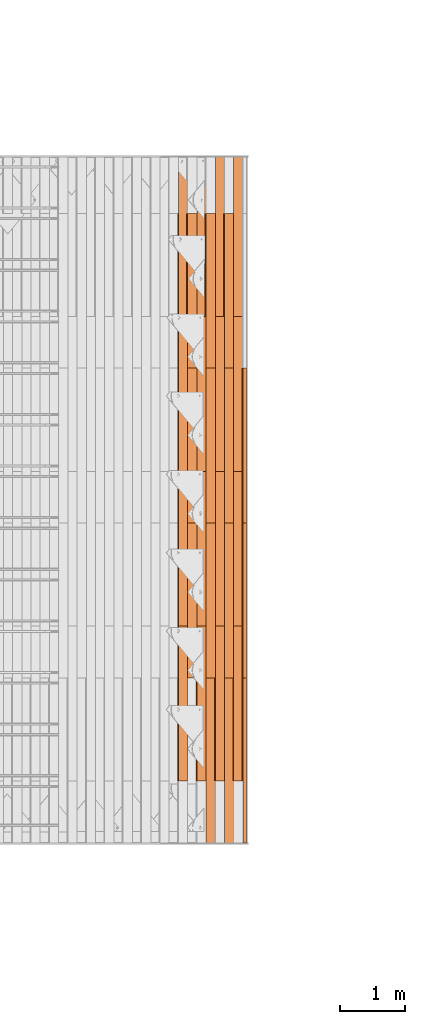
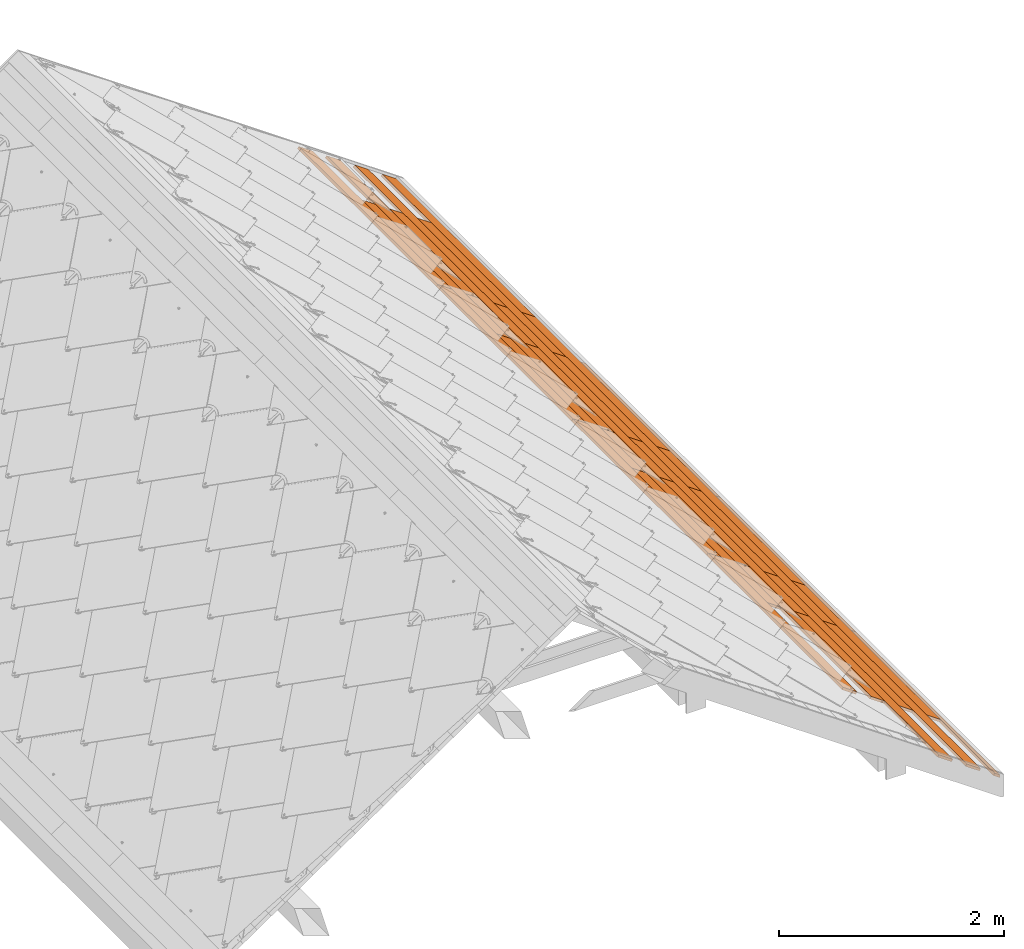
# One storey, part 91 of 133: 30 proxies, 1 element without a shape of its own.
"""IFC2X3 building model written with IfcOpenShell, lengths in millimetres."""

import ifcopenshell
import ifcopenshell.guid

model = None  # the IFC model being written
_history = None  # IfcOwnerHistory: only IFC2X3 demands one
_inside = {}  # id of a spatial element -> (the spatial element, [elements in it])
_under = {}  # id of a project, library or spatial element -> (it, [spatial elements below it])
_declared = {}  # id of a project -> (the project, [libraries it declares])
_typed = {}  # id of a type object -> (the type object, [elements of that type])
_made_of = {}  # id of a material, layer set ... -> (it, [elements and type objects made of it])


def new_model(schema):
    """Start an empty IFC model of exactly this schema.

    Asked for "IFC4X3", IfcOpenShell would pick the latest addendum, in which some entities
    have other attributes; the version numbers below select the first issue.
    IFC2X3 requires an IfcOwnerHistory on every rooted entity: one is made here for all.
    """
    global model, _history
    if schema == "IFC4X3":
        model = ifcopenshell.file(schema_version=(4, 3, 0, 0))
    else:
        model = ifcopenshell.file(schema=schema)
    _inside.clear()
    _under.clear()
    _declared.clear()
    _typed.clear()
    _made_of.clear()
    _history = None
    if model.schema == "IFC2X3":
        org = make("IfcOrganization", Name="unknown")
        user = make(
            "IfcPersonAndOrganization",
            ThePerson=make("IfcPerson", FamilyName="unknown"),
            TheOrganization=org,
        )
        app = make(
            "IfcApplication",
            ApplicationDeveloper=org,
            Version="unknown",
            ApplicationFullName="unknown",
            ApplicationIdentifier="unknown",
        )
        _history = make(
            "IfcOwnerHistory",
            OwningUser=user,
            OwningApplication=app,
            ChangeAction="ADDED",
            CreationDate=0,
        )
    return model


def make(cls, **values):
    """One entity of the class cls with the attributes given. An attribute that is None is left unset."""
    return model.create_entity(
        cls, **{name: value for name, value in values.items() if value is not None}
    )


def entity(cls, *values):
    """Any entity or typed value of the class cls, its attributes in the order of the schema. None: left unset."""
    e = model.create_entity(cls)
    for i, value in enumerate(values):
        if value is not None:
            e[i] = value
    return e


def rooted(cls, **values):
    """An entity with a GlobalId (a new one), such as an element, a storey or a relation."""
    return make(cls, GlobalId=ifcopenshell.guid.new(), OwnerHistory=_history, **values)


def si_unit(unit_type, name, prefix=None):
    """IfcSIUnit, for example si_unit("LENGTHUNIT", "METRE", prefix="MILLI")."""
    return make("IfcSIUnit", UnitType=unit_type, Prefix=prefix, Name=name)


def converted_unit(unit_type, name, factor, base, dimensions=None, offset=None):
    """IfcConversionBasedUnit, such as the inch: factor (a typed value) times the base unit."""
    return make(
        "IfcConversionBasedUnit"
        if offset is None
        else "IfcConversionBasedUnitWithOffset",
        ConversionOffset=offset,
        Dimensions=None
        if dimensions is None
        else entity("IfcDimensionalExponents", *dimensions),
        UnitType=unit_type,
        Name=name,
        ConversionFactor=make(
            "IfcMeasureWithUnit", ValueComponent=factor, UnitComponent=base
        ),
    )


def derived_unit(unit_type, elements):
    """IfcDerivedUnit: a product of units, each with its exponent."""
    return make(
        "IfcDerivedUnit",
        Elements=[
            make("IfcDerivedUnitElement", Unit=unit, Exponent=power)
            for unit, power in elements
        ],
        UnitType=unit_type,
    )


def assignment(units):
    """IfcUnitAssignment: the units of a project."""
    return None if units is None else make("IfcUnitAssignment", Units=units)


def point(xyz):
    """IfcCartesianPoint."""
    return None if xyz is None else make("IfcCartesianPoint", Coordinates=xyz)


def direction(xyz):
    """IfcDirection."""
    return None if xyz is None else make("IfcDirection", DirectionRatios=xyz)


def frame(location, z_axis=None, x_axis=None):
    """IfcAxis2Placement3D, a coordinate frame: its origin and axes. An axis left out is left unset."""
    return make(
        "IfcAxis2Placement3D",
        Location=point(location),
        Axis=direction(z_axis),
        RefDirection=direction(x_axis),
    )


def frame_2d(location, x_axis=None):
    """IfcAxis2Placement2D, a coordinate frame in the plane: its origin and x axis."""
    return make(
        "IfcAxis2Placement2D", Location=point(location), RefDirection=direction(x_axis)
    )


def origin():
    """The frame at (0, 0, 0) with its axes left unset."""
    return frame((0.0, 0.0, 0.0))


def place(relative_to, where):
    """IfcLocalPlacement: puts the frame where relative to a parent placement (None: the world)."""
    return make(
        "IfcLocalPlacement", PlacementRelTo=relative_to, RelativePlacement=where
    )


def context(
    kind, dimensions, precision=None, world=None, true_north=None, identifier=None
):
    """IfcGeometricRepresentationContext, for example the 3D "Model" context."""
    return make(
        "IfcGeometricRepresentationContext",
        ContextIdentifier=identifier,
        ContextType=kind,
        CoordinateSpaceDimension=dimensions,
        Precision=precision,
        WorldCoordinateSystem=world,
        TrueNorth=true_north,
    )


def subcontext(parent, identifier, kind, view, scale=None):
    """IfcGeometricRepresentationSubContext, for example "Body" below "Model"."""
    return make(
        "IfcGeometricRepresentationSubContext",
        ContextIdentifier=identifier,
        ContextType=kind,
        ParentContext=parent,
        TargetScale=scale,
        TargetView=view,
    )


def project(units=None, contexts=None):
    """IfcProject with its units and contexts."""
    return rooted(
        "IfcProject",
        Name="project",
        RepresentationContexts=contexts,
        UnitsInContext=assignment(units),
    )


def spatial(cls, under=None, at=None, **own):
    """A site, building, storey or space (cls), placed at a placement, below another one or the project."""
    s = rooted(cls, ObjectPlacement=at, **own)
    if under is not None:
        _under.setdefault(under.id(), (under, []))[1].append(s)
    return s


def polyline(points):
    """IfcPolyline through the points."""
    return make("IfcPolyline", Points=[point(p) for p in points])


def profile(cls, at=None, kind="AREA", **sizes):
    """A parametric profile (cls). Its sizes go by their IFC names, for example OverallWidth=200.0."""
    return make(cls, ProfileType=kind, Position=at, **sizes)


def rectangle(**sizes):
    """IfcRectangleProfileDef."""
    return profile("IfcRectangleProfileDef", **sizes)


def outline(outer, holes=None, kind="AREA"):
    """IfcArbitraryClosedProfileDef: a profile drawn as a closed curve; with holes, ...WithVoids."""
    if holes is None:
        return make("IfcArbitraryClosedProfileDef", ProfileType=kind, OuterCurve=outer)
    return make(
        "IfcArbitraryProfileDefWithVoids",
        ProfileType=kind,
        OuterCurve=outer,
        InnerCurves=holes,
    )


def extrude(swept, where, along, depth):
    """IfcExtrudedAreaSolid: the profile swept, set in the frame where, extruded along a direction by depth."""
    return make(
        "IfcExtrudedAreaSolid",
        SweptArea=swept,
        Position=where,
        ExtrudedDirection=direction(along),
        Depth=depth,
    )


def shape(context_of_items, identifier, shape_type, items):
    """IfcShapeRepresentation: the items that make up one representation, for example the "Body"."""
    return make(
        "IfcShapeRepresentation",
        ContextOfItems=context_of_items,
        RepresentationIdentifier=identifier,
        RepresentationType=shape_type,
        Items=items,
    )


def source(mapping_origin, context_of_items, identifier, shape_type, items):
    """IfcRepresentationMap: a shape defined once, which mapped items show again and again."""
    return make(
        "IfcRepresentationMap",
        MappingOrigin=mapping_origin,
        MappedRepresentation=shape(context_of_items, identifier, shape_type, items),
    )


def transform(
    local_origin,
    x_axis=None,
    y_axis=None,
    z_axis=None,
    scale=None,
    scale2=None,
    scale3=None,
    uniform=True,
):
    """IfcCartesianTransformationOperator3D, or its non-uniform kind. x_axis, y_axis, z_axis: its Axis1, 2, 3."""
    if uniform:
        return make(
            "IfcCartesianTransformationOperator3D",
            Axis1=direction(x_axis),
            Axis2=direction(y_axis),
            LocalOrigin=point(local_origin),
            Scale=scale,
            Axis3=direction(z_axis),
        )
    return make(
        "IfcCartesianTransformationOperator3DnonUniform",
        Axis1=direction(x_axis),
        Axis2=direction(y_axis),
        LocalOrigin=point(local_origin),
        Scale=scale,
        Axis3=direction(z_axis),
        Scale2=scale2,
        Scale3=scale3,
    )


def mapped(mapping_source, mapping_target):
    """IfcMappedItem: shows the shape of a source again, moved by a transform."""
    return make(
        "IfcMappedItem", MappingSource=mapping_source, MappingTarget=mapping_target
    )


def material(Name=None, Category=None):
    """IfcMaterial."""
    return make("IfcMaterial", Name=Name, Category=Category)


def made_of(thing, what):
    """Note that an element or type object is made of a material, layer set ...; save() writes the relation."""
    if what is not None:
        _made_of.setdefault(what.id(), (what, []))[1].append(thing)
    return thing


def type_object(cls, material=None, **own):
    """A type object (cls), such as IfcWallType, which elements share."""
    return made_of(rooted(cls, **own), material)


def type_shapes(of_type, sources):
    """Give a type object the sources (RepresentationMaps) that its elements show as mapped items."""
    of_type.RepresentationMaps = sources


def element(
    cls,
    number,
    at=None,
    inside=None,
    cuts=None,
    type_object=None,
    material=None,
    context=None,
    identifier="Body",
    shape_type=None,
    held_by="IfcProductDefinitionShape",
    body=None,
    shapes=None,
    **own,
):
    """One element of the class cls, such as IfcWall. Its Tag is "e" and its number.

    at: its placement. inside: the storey or other place that contains it. cuts: it is an
    opening in that element (IfcRelVoidsElement). A single representation is given by context,
    identifier, shape_type and body (its items); several are given by shapes. held_by: the class
    of the entity that holds the representations. save() writes the other relations.
    """
    e = rooted(cls, Tag="e%d" % number, ObjectPlacement=at, **own)
    if body is not None:
        shapes = [shape(context, identifier, shape_type, body)]
    if shapes is not None:
        e.Representation = make(held_by, Representations=shapes)
    if inside is not None:
        _inside.setdefault(inside.id(), (inside, []))[1].append(e)
    if cuts is not None:
        rooted(
            "IfcRelVoidsElement", RelatingBuildingElement=cuts, RelatedOpeningElement=e
        )
    if type_object is not None:
        _typed.setdefault(type_object.id(), (type_object, []))[1].append(e)
    return made_of(e, material)


def aggregate(whole, parts):
    """IfcRelAggregates: a whole, such as a stair, and the parts it consists of."""
    return rooted("IfcRelAggregates", RelatingObject=whole, RelatedObjects=parts)


def save(model, path):
    """Write the relations noted so far, then the file.

    IfcRelAggregates (storeys below a building ...), IfcRelContainedInSpatialStructure (elements
    in a storey), IfcRelDefinesByType, IfcRelAssociatesMaterial and IfcRelDeclares: one each for
    every whole, place, type object, material and project.
    """
    for whole, parts in _under.values():
        aggregate(whole, parts)
    for where, things in _inside.values():
        rooted(
            "IfcRelContainedInSpatialStructure",
            RelatedElements=things,
            RelatingStructure=where,
        )
    for kind, things in _typed.values():
        rooted("IfcRelDefinesByType", RelatedObjects=things, RelatingType=kind)
    for what, things in _made_of.values():
        rooted("IfcRelAssociatesMaterial", RelatedObjects=things, RelatingMaterial=what)
    for by, libraries in _declared.values():
        rooted("IfcRelDeclares", RelatingContext=by, RelatedDefinitions=libraries)
    model.write(path)


model = new_model("IFC2X3")

# Units and contexts
model_context = context("Model", 3, precision=0.01, world=origin(), true_north=direction((6.12303176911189e-17, 1.0)))
body_context = subcontext(model_context, "Body", "Model", "MODEL_VIEW")
ifc_project = project(units=[si_unit("LENGTHUNIT", "METRE", prefix="MILLI"), si_unit("AREAUNIT", "SQUARE_METRE"), si_unit("VOLUMEUNIT", "CUBIC_METRE"), converted_unit("PLANEANGLEUNIT", "DEGREE", entity("IfcRatioMeasure", 0.0174532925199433), si_unit("PLANEANGLEUNIT", "RADIAN"), dimensions=[0, 0, 0, 0, 0, 0, 0]), si_unit("MASSUNIT", "GRAM", prefix="KILO"), derived_unit("MASSDENSITYUNIT", [(si_unit("MASSUNIT", "GRAM", prefix="KILO"), 1), (si_unit("LENGTHUNIT", "METRE"), -3)]), si_unit("TIMEUNIT", "SECOND"), si_unit("FREQUENCYUNIT", "HERTZ"), si_unit("THERMODYNAMICTEMPERATUREUNIT", "DEGREE_CELSIUS"), derived_unit("THERMALTRANSMITTANCEUNIT", [(si_unit("MASSUNIT", "GRAM", prefix="KILO"), 1), (si_unit("THERMODYNAMICTEMPERATUREUNIT", "KELVIN"), -1), (si_unit("TIMEUNIT", "SECOND"), -3)]), derived_unit("VOLUMETRICFLOWRATEUNIT", [(si_unit("LENGTHUNIT", "METRE"), 3), (si_unit("TIMEUNIT", "SECOND"), -1)]), si_unit("ELECTRICCURRENTUNIT", "AMPERE"), si_unit("ELECTRICVOLTAGEUNIT", "VOLT"), si_unit("POWERUNIT", "WATT"), si_unit("FORCEUNIT", "NEWTON", prefix="KILO"), si_unit("ILLUMINANCEUNIT", "LUX"), si_unit("LUMINOUSFLUXUNIT", "LUMEN"), si_unit("LUMINOUSINTENSITYUNIT", "CANDELA"), derived_unit("USERDEFINED", [(si_unit("MASSUNIT", "GRAM", prefix="KILO"), -1), (si_unit("LENGTHUNIT", "METRE"), -2), (si_unit("TIMEUNIT", "SECOND"), 3), (si_unit("LUMINOUSFLUXUNIT", "LUMEN"), 1)]), derived_unit("LINEARVELOCITYUNIT", [(si_unit("LENGTHUNIT", "METRE"), 1), (si_unit("TIMEUNIT", "SECOND"), -1)]), si_unit("PRESSUREUNIT", "PASCAL"), derived_unit("USERDEFINED", [(si_unit("LENGTHUNIT", "METRE"), -2), (si_unit("MASSUNIT", "GRAM", prefix="KILO"), 1), (si_unit("TIMEUNIT", "SECOND"), -2)])], contexts=[model_context])

# Site, building, storey
site_placement = place(None, origin())
site = spatial("IfcSite", under=ifc_project, at=site_placement, Name="Default", CompositionType="ELEMENT")
building_placement = place(site_placement, origin())
building = spatial("IfcBuilding", under=site, at=building_placement, CompositionType="ELEMENT")
storey_placement = place(building_placement, origin())
storey = spatial("IfcBuildingStorey", under=building, at=storey_placement, Name="Level 1", CompositionType="ELEMENT", Elevation=0.0)

# Assembly, proxies
assembly_placement = place(storey_placement, origin())
assembly = element("IfcElementAssembly", 1, at=assembly_placement, inside=storey, Name="Structural Framing Assembly:Roof Construction Assembly", ObjectType="Structural Framing Assembly:Roof Construction Assembly", AssemblyPlace="NOTDEFINED", PredefinedType="USERDEFINED")
ifc_material = material(Name="Wood - Generic - Wood For Showcase")
building_element_proxy_type_1 = type_object("IfcBuildingElementProxyType", Name="Structural Framing 15", PredefinedType="NOTDEFINED", material=ifc_material)
shared_shape_1 = source(origin(), body_context, "Body", "SweptSolid", [
    extrude(rectangle(XDim=24.9999999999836, YDim=174.344679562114, at=frame_2d((3.73923114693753e-13, 6.3948846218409e-14), x_axis=(1.0, 0.0))), frame((1285.35601305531, 1455.55080214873, 2760.23940055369), z_axis=(0.0, 1.0, 0.0), x_axis=(0.573576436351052, 0.0, 0.819152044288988)), (0.0, 0.0, 1.0), 2469.99999999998),
])
type_shapes(building_element_proxy_type_1, [shared_shape_1])
proxy_1_placement = place(assembly_placement, frame((2856.29601348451, 0.0, -2000.0)))
proxy_1 = element("IfcBuildingElementProxy", 2, at=proxy_1_placement, type_object=building_element_proxy_type_1, material=ifc_material, Name="Structural Framing 255:Structural Framing 15", ObjectType="Structural Framing 255:Structural Framing 15", context=body_context, shape_type="MappedRepresentation", body=[
    mapped(shared_shape_1, transform((0.0, 0.0, 0.0), scale=1.0)),
])
building_element_proxy_type_2 = type_object("IfcBuildingElementProxyType", Name="Structural Framing 15", PredefinedType="NOTDEFINED", material=ifc_material)
shared_shape_2 = source(origin(), body_context, "Body", "SweptSolid", [
    extrude(rectangle(XDim=24.9999999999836, YDim=174.344679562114, at=frame_2d((2.97539770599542e-13, -4.2632564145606e-14), x_axis=(1.0, 0.0))), frame((1285.35601305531, 1525.55080214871, 2760.23940055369), z_axis=(0.0, 1.0, 0.0), x_axis=(0.573576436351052, 0.0, 0.819152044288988)), (0.0, 0.0, 1.0), 2400.0),
])
type_shapes(building_element_proxy_type_2, [shared_shape_2])
proxy_2_placement = place(assembly_placement, frame((2856.29601348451, -2470.0, -2000.0)))
proxy_2 = element("IfcBuildingElementProxy", 3, at=proxy_2_placement, type_object=building_element_proxy_type_2, material=ifc_material, Name="Structural Framing 256:Structural Framing 15", ObjectType="Structural Framing 256:Structural Framing 15", context=body_context, shape_type="MappedRepresentation", body=[
    mapped(shared_shape_2, transform((0.0, 0.0, 0.0), scale=1.0)),
])
building_element_proxy_type_3 = type_object("IfcBuildingElementProxyType", Name="Structural Framing 15", PredefinedType="NOTDEFINED", material=ifc_material)
shared_shape_3 = source(origin(), body_context, "Body", "SweptSolid", [
    extrude(rectangle(XDim=24.9999999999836, YDim=174.344679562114, at=frame_2d((2.97539770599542e-13, -4.2632564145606e-14), x_axis=(1.0, 0.0))), frame((1285.35601305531, 1525.55080214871, 2760.23940055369), z_axis=(0.0, 1.0, 0.0), x_axis=(0.573576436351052, 0.0, 0.819152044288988)), (0.0, 0.0, 1.0), 2400.0),
])
type_shapes(building_element_proxy_type_3, [shared_shape_3])
proxy_3_placement = place(assembly_placement, frame((2856.29601348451, -4870.0, -2000.0)))
proxy_3 = element("IfcBuildingElementProxy", 4, at=proxy_3_placement, type_object=building_element_proxy_type_3, material=ifc_material, Name="Structural Framing 257:Structural Framing 15", ObjectType="Structural Framing 257:Structural Framing 15", context=body_context, shape_type="MappedRepresentation", body=[
    mapped(shared_shape_3, transform((0.0, 0.0, 0.0), scale=1.0)),
])
building_element_proxy_type_4 = type_object("IfcBuildingElementProxyType", Name="Structural Framing 15", PredefinedType="NOTDEFINED", material=ifc_material)
shared_shape_4 = source(origin(), body_context, "Body", "SweptSolid", [
    extrude(rectangle(XDim=24.9999999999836, YDim=174.344679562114, at=frame_2d((2.97539770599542e-13, -4.2632564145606e-14), x_axis=(1.0, 0.0))), frame((1285.35601305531, 1525.55080214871, 2760.23940055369), z_axis=(0.0, 1.0, 0.0), x_axis=(0.573576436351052, 0.0, 0.819152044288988)), (0.0, 0.0, 1.0), 2400.0),
])
type_shapes(building_element_proxy_type_4, [shared_shape_4])
proxy_4_placement = place(assembly_placement, frame((2856.29601348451, -7270.0, -2000.0)))
proxy_4 = element("IfcBuildingElementProxy", 5, at=proxy_4_placement, type_object=building_element_proxy_type_4, material=ifc_material, Name="Structural Framing 258:Structural Framing 15", ObjectType="Structural Framing 258:Structural Framing 15", context=body_context, shape_type="MappedRepresentation", body=[
    mapped(shared_shape_4, transform((0.0, 0.0, 0.0), scale=1.0)),
])
building_element_proxy_type_5 = type_object("IfcBuildingElementProxyType", Name="Structural Framing 15", PredefinedType="NOTDEFINED", material=ifc_material)
shared_shape_5 = source(origin(), body_context, "Body", "SweptSolid", [
    extrude(rectangle(XDim=24.9999999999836, YDim=174.344679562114, at=frame_2d((2.97539770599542e-13, -4.2632564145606e-14), x_axis=(1.0, 0.0))), frame((1285.35601305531, 1525.55080214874, 2760.23940055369), z_axis=(0.0, 1.0, 0.0), x_axis=(0.573576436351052, 0.0, 0.819152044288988)), (0.0, 0.0, 1.0), 2399.99999999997),
])
type_shapes(building_element_proxy_type_5, [shared_shape_5])
proxy_5_placement = place(assembly_placement, frame((2999.11081415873, -870.0, -2100.0)))
proxy_5 = element("IfcBuildingElementProxy", 6, at=proxy_5_placement, type_object=building_element_proxy_type_5, material=ifc_material, Name="Structural Framing 260:Structural Framing 15", ObjectType="Structural Framing 260:Structural Framing 15", context=body_context, shape_type="MappedRepresentation", body=[
    mapped(shared_shape_5, transform((0.0, 0.0, 0.0), scale=1.0)),
])
building_element_proxy_type_6 = type_object("IfcBuildingElementProxyType", Name="Structural Framing 15", PredefinedType="NOTDEFINED", material=ifc_material)
shared_shape_6 = source(origin(), body_context, "Body", "SweptSolid", [
    extrude(rectangle(XDim=24.9999999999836, YDim=174.344679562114, at=frame_2d((2.22044604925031e-13, -1.63424829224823e-13), x_axis=(1.0, 0.0))), frame((1285.35601305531, 1595.55080214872, 2760.23940055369), z_axis=(0.0, 1.0, 0.0), x_axis=(0.573576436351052, 0.0, 0.819152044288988)), (0.0, 0.0, 1.0), 2400.0),
])
type_shapes(building_element_proxy_type_6, [shared_shape_6])
proxy_6_placement = place(assembly_placement, frame((2999.11081415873, -3340.0, -2100.0)))
proxy_6 = element("IfcBuildingElementProxy", 7, at=proxy_6_placement, type_object=building_element_proxy_type_6, material=ifc_material, Name="Structural Framing 261:Structural Framing 15", ObjectType="Structural Framing 261:Structural Framing 15", context=body_context, shape_type="MappedRepresentation", body=[
    mapped(shared_shape_6, transform((0.0, 0.0, 0.0), scale=1.0)),
])
building_element_proxy_type_7 = type_object("IfcBuildingElementProxyType", Name="Structural Framing 15", PredefinedType="NOTDEFINED", material=ifc_material)
shared_shape_7 = source(origin(), body_context, "Body", "SweptSolid", [
    extrude(rectangle(XDim=24.9999999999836, YDim=174.344679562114, at=frame_2d((2.22044604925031e-13, -1.63424829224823e-13), x_axis=(1.0, 0.0))), frame((1285.35601305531, 1595.55080214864, 2760.23940055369), z_axis=(0.0, 1.0, 0.0), x_axis=(0.573576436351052, 0.0, 0.819152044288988)), (0.0, 0.0, 1.0), 2400.00000000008),
])
type_shapes(building_element_proxy_type_7, [shared_shape_7])
proxy_7_placement = place(assembly_placement, frame((2999.11081415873, -5740.0, -2100.0)))
proxy_7 = element("IfcBuildingElementProxy", 8, at=proxy_7_placement, type_object=building_element_proxy_type_7, material=ifc_material, Name="Structural Framing 262:Structural Framing 15", ObjectType="Structural Framing 262:Structural Framing 15", context=body_context, shape_type="MappedRepresentation", body=[
    mapped(shared_shape_7, transform((0.0, 0.0, 0.0), scale=1.0)),
])
building_element_proxy_type_8 = type_object("IfcBuildingElementProxyType", Name="Structural Framing 15", PredefinedType="NOTDEFINED", material=ifc_material)
shared_shape_8 = source(origin(), body_context, "Body", "SweptSolid", [
    extrude(rectangle(XDim=24.9999999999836, YDim=174.344679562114, at=frame_2d((3.73923114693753e-13, 6.3948846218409e-14), x_axis=(1.0, 0.0))), frame((1285.35601305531, 1455.55080214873, 2760.23940055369), z_axis=(0.0, 1.0, 0.0), x_axis=(0.573576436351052, 0.0, 0.819152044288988)), (0.0, 0.0, 1.0), 2469.99999999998),
])
type_shapes(building_element_proxy_type_8, [shared_shape_8])
proxy_8_placement = place(assembly_placement, frame((3141.92561483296, 0.0, -2200.0)))
proxy_8 = element("IfcBuildingElementProxy", 9, at=proxy_8_placement, type_object=building_element_proxy_type_8, material=ifc_material, Name="Structural Framing 265:Structural Framing 15", ObjectType="Structural Framing 265:Structural Framing 15", context=body_context, shape_type="MappedRepresentation", body=[
    mapped(shared_shape_8, transform((0.0, 0.0, 0.0), scale=1.0)),
])
building_element_proxy_type_9 = type_object("IfcBuildingElementProxyType", Name="Structural Framing 15", PredefinedType="NOTDEFINED", material=ifc_material)
shared_shape_9 = source(origin(), body_context, "Body", "SweptSolid", [
    extrude(rectangle(XDim=24.9999999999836, YDim=174.344679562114, at=frame_2d((2.97539770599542e-13, -4.2632564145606e-14), x_axis=(1.0, 0.0))), frame((1285.35601305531, 1525.55080214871, 2760.23940055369), z_axis=(0.0, 1.0, 0.0), x_axis=(0.573576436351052, 0.0, 0.819152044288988)), (0.0, 0.0, 1.0), 2400.0),
])
type_shapes(building_element_proxy_type_9, [shared_shape_9])
proxy_9_placement = place(assembly_placement, frame((3141.92561483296, -2470.0, -2200.0)))
proxy_9 = element("IfcBuildingElementProxy", 10, at=proxy_9_placement, type_object=building_element_proxy_type_9, material=ifc_material, Name="Structural Framing 266:Structural Framing 15", ObjectType="Structural Framing 266:Structural Framing 15", context=body_context, shape_type="MappedRepresentation", body=[
    mapped(shared_shape_9, transform((0.0, 0.0, 0.0), scale=1.0)),
])
building_element_proxy_type_10 = type_object("IfcBuildingElementProxyType", Name="Structural Framing 15", PredefinedType="NOTDEFINED", material=ifc_material)
shared_shape_10 = source(origin(), body_context, "Body", "SweptSolid", [
    extrude(rectangle(XDim=24.9999999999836, YDim=174.344679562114, at=frame_2d((2.97539770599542e-13, -4.2632564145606e-14), x_axis=(1.0, 0.0))), frame((1285.35601305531, 1525.55080214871, 2760.23940055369), z_axis=(0.0, 1.0, 0.0), x_axis=(0.573576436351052, 0.0, 0.819152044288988)), (0.0, 0.0, 1.0), 2400.0),
])
type_shapes(building_element_proxy_type_10, [shared_shape_10])
proxy_10_placement = place(assembly_placement, frame((3141.92561483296, -4870.0, -2200.0)))
proxy_10 = element("IfcBuildingElementProxy", 11, at=proxy_10_placement, type_object=building_element_proxy_type_10, material=ifc_material, Name="Structural Framing 267:Structural Framing 15", ObjectType="Structural Framing 267:Structural Framing 15", context=body_context, shape_type="MappedRepresentation", body=[
    mapped(shared_shape_10, transform((0.0, 0.0, 0.0), scale=1.0)),
])
building_element_proxy_type_11 = type_object("IfcBuildingElementProxyType", Name="Structural Framing 15", PredefinedType="NOTDEFINED", material=ifc_material)
shared_shape_11 = source(origin(), body_context, "Body", "SweptSolid", [
    extrude(rectangle(XDim=24.9999999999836, YDim=174.344679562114, at=frame_2d((2.97539770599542e-13, -4.2632564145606e-14), x_axis=(1.0, 0.0))), frame((1285.35601305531, 1525.55080214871, 2760.23940055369), z_axis=(0.0, 1.0, 0.0), x_axis=(0.573576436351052, 0.0, 0.819152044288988)), (0.0, 0.0, 1.0), 2400.0),
])
type_shapes(building_element_proxy_type_11, [shared_shape_11])
proxy_11_placement = place(assembly_placement, frame((3141.92561483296, -7270.0, -2200.0)))
proxy_11 = element("IfcBuildingElementProxy", 12, at=proxy_11_placement, type_object=building_element_proxy_type_11, material=ifc_material, Name="Structural Framing 268:Structural Framing 15", ObjectType="Structural Framing 268:Structural Framing 15", context=body_context, shape_type="MappedRepresentation", body=[
    mapped(shared_shape_11, transform((0.0, 0.0, 0.0), scale=1.0)),
])
building_element_proxy_type_12 = type_object("IfcBuildingElementProxyType", Name="Structural Framing 15", PredefinedType="NOTDEFINED", material=ifc_material)
shared_shape_12 = source(origin(), body_context, "Body", "SweptSolid", [
    extrude(rectangle(XDim=24.9999999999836, YDim=174.344679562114, at=frame_2d((2.97539770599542e-13, -4.2632564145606e-14), x_axis=(1.0, 0.0))), frame((1285.35601305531, 1525.55080214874, 2760.23940055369), z_axis=(0.0, 1.0, 0.0), x_axis=(0.573576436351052, 0.0, 0.819152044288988)), (0.0, 0.0, 1.0), 2399.99999999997),
])
type_shapes(building_element_proxy_type_12, [shared_shape_12])
proxy_12_placement = place(assembly_placement, frame((3284.74041550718, -870.0, -2300.0)))
proxy_12 = element("IfcBuildingElementProxy", 13, at=proxy_12_placement, type_object=building_element_proxy_type_12, material=ifc_material, Name="Structural Framing 270:Structural Framing 15", ObjectType="Structural Framing 270:Structural Framing 15", context=body_context, shape_type="MappedRepresentation", body=[
    mapped(shared_shape_12, transform((0.0, 0.0, 0.0), scale=1.0)),
])
building_element_proxy_type_13 = type_object("IfcBuildingElementProxyType", Name="Structural Framing 15", PredefinedType="NOTDEFINED", material=ifc_material)
shared_shape_13 = source(origin(), body_context, "Body", "SweptSolid", [
    extrude(rectangle(XDim=24.9999999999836, YDim=174.344679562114, at=frame_2d((2.22044604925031e-13, -1.63424829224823e-13), x_axis=(1.0, 0.0))), frame((1285.35601305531, 1595.55080214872, 2760.23940055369), z_axis=(0.0, 1.0, 0.0), x_axis=(0.573576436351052, 0.0, 0.819152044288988)), (0.0, 0.0, 1.0), 2400.0),
])
type_shapes(building_element_proxy_type_13, [shared_shape_13])
proxy_13_placement = place(assembly_placement, frame((3284.74041550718, -3340.0, -2300.0)))
proxy_13 = element("IfcBuildingElementProxy", 14, at=proxy_13_placement, type_object=building_element_proxy_type_13, material=ifc_material, Name="Structural Framing 271:Structural Framing 15", ObjectType="Structural Framing 271:Structural Framing 15", context=body_context, shape_type="MappedRepresentation", body=[
    mapped(shared_shape_13, transform((0.0, 0.0, 0.0), scale=1.0)),
])
building_element_proxy_type_14 = type_object("IfcBuildingElementProxyType", Name="Structural Framing 15", PredefinedType="NOTDEFINED", material=ifc_material)
shared_shape_14 = source(origin(), body_context, "Body", "SweptSolid", [
    extrude(rectangle(XDim=24.9999999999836, YDim=174.344679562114, at=frame_2d((2.22044604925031e-13, -1.63424829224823e-13), x_axis=(1.0, 0.0))), frame((1285.35601305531, 1595.55080214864, 2760.23940055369), z_axis=(0.0, 1.0, 0.0), x_axis=(0.573576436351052, 0.0, 0.819152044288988)), (0.0, 0.0, 1.0), 2400.00000000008),
])
type_shapes(building_element_proxy_type_14, [shared_shape_14])
proxy_14_placement = place(assembly_placement, frame((3284.74041550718, -5740.0, -2300.0)))
proxy_14 = element("IfcBuildingElementProxy", 15, at=proxy_14_placement, type_object=building_element_proxy_type_14, material=ifc_material, Name="Structural Framing 272:Structural Framing 15", ObjectType="Structural Framing 272:Structural Framing 15", context=body_context, shape_type="MappedRepresentation", body=[
    mapped(shared_shape_14, transform((0.0, 0.0, 0.0), scale=1.0)),
])
building_element_proxy_type_15 = type_object("IfcBuildingElementProxyType", Name="Structural Framing 15", PredefinedType="NOTDEFINED", material=ifc_material)
shared_shape_15 = source(origin(), body_context, "Body", "SweptSolid", [
    extrude(rectangle(XDim=24.9999999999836, YDim=174.344679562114, at=frame_2d((3.73923114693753e-13, 6.3948846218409e-14), x_axis=(1.0, 0.0))), frame((1285.35601305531, 1437.09519417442, 2760.23940055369), z_axis=(0.0, 1.0, 0.0), x_axis=(0.573576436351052, 0.0, 0.819152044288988)), (0.0, 0.0, 1.0), 2558.45560797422),
])
type_shapes(building_element_proxy_type_15, [shared_shape_15])
proxy_15_placement = place(assembly_placement, frame((3284.74041550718, -8140.0, -2300.0)))
proxy_15 = element("IfcBuildingElementProxy", 16, at=proxy_15_placement, type_object=building_element_proxy_type_15, material=ifc_material, Name="Structural Framing 273:Structural Framing 15", ObjectType="Structural Framing 273:Structural Framing 15", context=body_context, shape_type="MappedRepresentation", body=[
    mapped(shared_shape_15, transform((0.0, 0.0, 0.0), scale=1.0)),
])
building_element_proxy_type_16 = type_object("IfcBuildingElementProxyType", Name="Structural Framing 15", PredefinedType="NOTDEFINED", material=ifc_material)
shared_shape_16 = source(origin(), body_context, "Body", "SweptSolid", [
    extrude(rectangle(XDim=24.9999999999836, YDim=174.344679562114, at=frame_2d((3.73923114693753e-13, 6.3948846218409e-14), x_axis=(1.0, 0.0))), frame((1285.35601305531, 1455.55080214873, 2760.23940055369), z_axis=(0.0, 1.0, 0.0), x_axis=(0.573576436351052, 0.0, 0.819152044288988)), (0.0, 0.0, 1.0), 2469.99999999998),
])
type_shapes(building_element_proxy_type_16, [shared_shape_16])
proxy_16_placement = place(assembly_placement, frame((3427.55521618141, 0.0, -2400.0)))
proxy_16 = element("IfcBuildingElementProxy", 17, at=proxy_16_placement, type_object=building_element_proxy_type_16, material=ifc_material, Name="Structural Framing 275:Structural Framing 15", ObjectType="Structural Framing 275:Structural Framing 15", context=body_context, shape_type="MappedRepresentation", body=[
    mapped(shared_shape_16, transform((0.0, 0.0, 0.0), scale=1.0)),
])
building_element_proxy_type_17 = type_object("IfcBuildingElementProxyType", Name="Structural Framing 15", PredefinedType="NOTDEFINED", material=ifc_material)
shared_shape_17 = source(origin(), body_context, "Body", "SweptSolid", [
    extrude(rectangle(XDim=24.9999999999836, YDim=174.344679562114, at=frame_2d((2.97539770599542e-13, -4.2632564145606e-14), x_axis=(1.0, 0.0))), frame((1285.35601305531, 1525.55080214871, 2760.23940055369), z_axis=(0.0, 1.0, 0.0), x_axis=(0.573576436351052, 0.0, 0.819152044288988)), (0.0, 0.0, 1.0), 2400.0),
])
type_shapes(building_element_proxy_type_17, [shared_shape_17])
proxy_17_placement = place(assembly_placement, frame((3427.55521618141, -2470.0, -2400.0)))
proxy_17 = element("IfcBuildingElementProxy", 18, at=proxy_17_placement, type_object=building_element_proxy_type_17, material=ifc_material, Name="Structural Framing 276:Structural Framing 15", ObjectType="Structural Framing 276:Structural Framing 15", context=body_context, shape_type="MappedRepresentation", body=[
    mapped(shared_shape_17, transform((0.0, 0.0, 0.0), scale=1.0)),
])
building_element_proxy_type_18 = type_object("IfcBuildingElementProxyType", Name="Structural Framing 15", PredefinedType="NOTDEFINED", material=ifc_material)
shared_shape_18 = source(origin(), body_context, "Body", "SweptSolid", [
    extrude(rectangle(XDim=24.9999999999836, YDim=174.344679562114, at=frame_2d((2.97539770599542e-13, -4.2632564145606e-14), x_axis=(1.0, 0.0))), frame((1285.35601305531, 1525.55080214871, 2760.23940055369), z_axis=(0.0, 1.0, 0.0), x_axis=(0.573576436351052, 0.0, 0.819152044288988)), (0.0, 0.0, 1.0), 2400.0),
])
type_shapes(building_element_proxy_type_18, [shared_shape_18])
proxy_18_placement = place(assembly_placement, frame((3427.55521618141, -4870.0, -2400.0)))
proxy_18 = element("IfcBuildingElementProxy", 19, at=proxy_18_placement, type_object=building_element_proxy_type_18, material=ifc_material, Name="Structural Framing 277:Structural Framing 15", ObjectType="Structural Framing 277:Structural Framing 15", context=body_context, shape_type="MappedRepresentation", body=[
    mapped(shared_shape_18, transform((0.0, 0.0, 0.0), scale=1.0)),
])
building_element_proxy_type_19 = type_object("IfcBuildingElementProxyType", Name="Structural Framing 15", PredefinedType="NOTDEFINED", material=ifc_material)
shared_shape_19 = source(origin(), body_context, "Body", "SweptSolid", [
    extrude(rectangle(XDim=24.9999999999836, YDim=174.344679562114, at=frame_2d((2.97539770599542e-13, -4.2632564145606e-14), x_axis=(1.0, 0.0))), frame((1285.35601305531, 1525.55080214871, 2760.23940055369), z_axis=(0.0, 1.0, 0.0), x_axis=(0.573576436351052, 0.0, 0.819152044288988)), (0.0, 0.0, 1.0), 2400.0),
])
type_shapes(building_element_proxy_type_19, [shared_shape_19])
proxy_19_placement = place(assembly_placement, frame((3427.55521618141, -7270.0, -2400.0)))
proxy_19 = element("IfcBuildingElementProxy", 20, at=proxy_19_placement, type_object=building_element_proxy_type_19, material=ifc_material, Name="Structural Framing 278:Structural Framing 15", ObjectType="Structural Framing 278:Structural Framing 15", context=body_context, shape_type="MappedRepresentation", body=[
    mapped(shared_shape_19, transform((0.0, 0.0, 0.0), scale=1.0)),
])
building_element_proxy_type_20 = type_object("IfcBuildingElementProxyType", Name="Structural Framing 15", PredefinedType="NOTDEFINED", material=ifc_material)
shared_shape_20 = source(origin(), body_context, "Body", "SweptSolid", [
    extrude(rectangle(XDim=24.9999999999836, YDim=174.344679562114, at=frame_2d((2.97539770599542e-13, -4.2632564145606e-14), x_axis=(1.0, 0.0))), frame((1285.35601305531, 1525.55080214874, 2760.23940055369), z_axis=(0.0, 1.0, 0.0), x_axis=(0.573576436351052, 0.0, 0.819152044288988)), (0.0, 0.0, 1.0), 2399.99999999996),
])
type_shapes(building_element_proxy_type_20, [shared_shape_20])
proxy_20_placement = place(assembly_placement, frame((3570.37001685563, -870.0, -2500.0)))
proxy_20 = element("IfcBuildingElementProxy", 21, at=proxy_20_placement, type_object=building_element_proxy_type_20, material=ifc_material, Name="Structural Framing 280:Structural Framing 15", ObjectType="Structural Framing 280:Structural Framing 15", context=body_context, shape_type="MappedRepresentation", body=[
    mapped(shared_shape_20, transform((0.0, 0.0, 0.0), scale=1.0)),
])
building_element_proxy_type_21 = type_object("IfcBuildingElementProxyType", Name="Structural Framing 15", PredefinedType="NOTDEFINED", material=ifc_material)
shared_shape_21 = source(origin(), body_context, "Body", "SweptSolid", [
    extrude(rectangle(XDim=24.9999999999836, YDim=174.344679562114, at=frame_2d((2.22044604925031e-13, -1.63424829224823e-13), x_axis=(1.0, 0.0))), frame((1285.35601305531, 1595.55080214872, 2760.23940055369), z_axis=(0.0, 1.0, 0.0), x_axis=(0.573576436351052, 0.0, 0.819152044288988)), (0.0, 0.0, 1.0), 2400.0),
])
type_shapes(building_element_proxy_type_21, [shared_shape_21])
proxy_21_placement = place(assembly_placement, frame((3570.37001685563, -3340.0, -2500.0)))
proxy_21 = element("IfcBuildingElementProxy", 22, at=proxy_21_placement, type_object=building_element_proxy_type_21, material=ifc_material, Name="Structural Framing 281:Structural Framing 15", ObjectType="Structural Framing 281:Structural Framing 15", context=body_context, shape_type="MappedRepresentation", body=[
    mapped(shared_shape_21, transform((0.0, 0.0, 0.0), scale=1.0)),
])
building_element_proxy_type_22 = type_object("IfcBuildingElementProxyType", Name="Structural Framing 15", PredefinedType="NOTDEFINED", material=ifc_material)
shared_shape_22 = source(origin(), body_context, "Body", "SweptSolid", [
    extrude(rectangle(XDim=24.9999999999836, YDim=174.344679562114, at=frame_2d((2.22044604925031e-13, -1.63424829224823e-13), x_axis=(1.0, 0.0))), frame((1285.35601305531, 1595.55080214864, 2760.23940055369), z_axis=(0.0, 1.0, 0.0), x_axis=(0.573576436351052, 0.0, 0.819152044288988)), (0.0, 0.0, 1.0), 2400.00000000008),
])
type_shapes(building_element_proxy_type_22, [shared_shape_22])
proxy_22_placement = place(assembly_placement, frame((3570.37001685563, -5740.0, -2500.0)))
proxy_22 = element("IfcBuildingElementProxy", 23, at=proxy_22_placement, type_object=building_element_proxy_type_22, material=ifc_material, Name="Structural Framing 282:Structural Framing 15", ObjectType="Structural Framing 282:Structural Framing 15", context=body_context, shape_type="MappedRepresentation", body=[
    mapped(shared_shape_22, transform((0.0, 0.0, 0.0), scale=1.0)),
])
building_element_proxy_type_23 = type_object("IfcBuildingElementProxyType", Name="Structural Framing 15", PredefinedType="NOTDEFINED", material=ifc_material)
shared_shape_23 = source(origin(), body_context, "Body", "SweptSolid", [
    extrude(rectangle(XDim=24.9999999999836, YDim=174.344679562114, at=frame_2d((3.73923114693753e-13, 6.3948846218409e-14), x_axis=(1.0, 0.0))), frame((1285.35601305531, 1437.09519417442, 2760.23940055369), z_axis=(0.0, 1.0, 0.0), x_axis=(0.573576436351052, 0.0, 0.819152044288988)), (0.0, 0.0, 1.0), 2558.45560797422),
])
type_shapes(building_element_proxy_type_23, [shared_shape_23])
proxy_23_placement = place(assembly_placement, frame((3570.37001685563, -8140.0, -2500.0)))
proxy_23 = element("IfcBuildingElementProxy", 24, at=proxy_23_placement, type_object=building_element_proxy_type_23, material=ifc_material, Name="Structural Framing 283:Structural Framing 15", ObjectType="Structural Framing 283:Structural Framing 15", context=body_context, shape_type="MappedRepresentation", body=[
    mapped(shared_shape_23, transform((0.0, 0.0, 0.0), scale=1.0)),
])
building_element_proxy_type_24 = type_object("IfcBuildingElementProxyType", Name="Structural Framing 15", PredefinedType="NOTDEFINED", material=ifc_material)
shared_shape_24 = source(origin(), body_context, "Body", "SweptSolid", [
    extrude(rectangle(XDim=24.9999999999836, YDim=174.344679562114, at=frame_2d((3.73923114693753e-13, 6.3948846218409e-14), x_axis=(1.0, 0.0))), frame((1285.35601305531, 1455.55080214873, 2760.23940055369), z_axis=(0.0, 1.0, 0.0), x_axis=(0.573576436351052, 0.0, 0.819152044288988)), (0.0, 0.0, 1.0), 2469.99999999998),
])
type_shapes(building_element_proxy_type_24, [shared_shape_24])
proxy_24_placement = place(assembly_placement, frame((3713.18481752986, 0.0, -2600.0)))
proxy_24 = element("IfcBuildingElementProxy", 25, at=proxy_24_placement, type_object=building_element_proxy_type_24, material=ifc_material, Name="Structural Framing 285:Structural Framing 15", ObjectType="Structural Framing 285:Structural Framing 15", context=body_context, shape_type="MappedRepresentation", body=[
    mapped(shared_shape_24, transform((0.0, 0.0, 0.0), scale=1.0)),
])
building_element_proxy_type_25 = type_object("IfcBuildingElementProxyType", Name="Structural Framing 15", PredefinedType="NOTDEFINED", material=ifc_material)
shared_shape_25 = source(origin(), body_context, "Body", "SweptSolid", [
    extrude(rectangle(XDim=24.9999999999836, YDim=174.344679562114, at=frame_2d((2.97539770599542e-13, -4.2632564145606e-14), x_axis=(1.0, 0.0))), frame((1285.35601305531, 1525.55080214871, 2760.23940055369), z_axis=(0.0, 1.0, 0.0), x_axis=(0.573576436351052, 0.0, 0.819152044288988)), (0.0, 0.0, 1.0), 2400.0),
])
type_shapes(building_element_proxy_type_25, [shared_shape_25])
proxy_25_placement = place(assembly_placement, frame((3713.18481752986, -2470.0, -2600.0)))
proxy_25 = element("IfcBuildingElementProxy", 26, at=proxy_25_placement, type_object=building_element_proxy_type_25, material=ifc_material, Name="Structural Framing 286:Structural Framing 15", ObjectType="Structural Framing 286:Structural Framing 15", context=body_context, shape_type="MappedRepresentation", body=[
    mapped(shared_shape_25, transform((0.0, 0.0, 0.0), scale=1.0)),
])
building_element_proxy_type_26 = type_object("IfcBuildingElementProxyType", Name="Structural Framing 15", PredefinedType="NOTDEFINED", material=ifc_material)
shared_shape_26 = source(origin(), body_context, "Body", "SweptSolid", [
    extrude(rectangle(XDim=24.9999999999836, YDim=174.344679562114, at=frame_2d((2.97539770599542e-13, -4.2632564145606e-14), x_axis=(1.0, 0.0))), frame((1285.35601305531, 1525.55080214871, 2760.23940055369), z_axis=(0.0, 1.0, 0.0), x_axis=(0.573576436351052, 0.0, 0.819152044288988)), (0.0, 0.0, 1.0), 2400.0),
])
type_shapes(building_element_proxy_type_26, [shared_shape_26])
proxy_26_placement = place(assembly_placement, frame((3713.18481752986, -4870.0, -2600.0)))
proxy_26 = element("IfcBuildingElementProxy", 27, at=proxy_26_placement, type_object=building_element_proxy_type_26, material=ifc_material, Name="Structural Framing 287:Structural Framing 15", ObjectType="Structural Framing 287:Structural Framing 15", context=body_context, shape_type="MappedRepresentation", body=[
    mapped(shared_shape_26, transform((0.0, 0.0, 0.0), scale=1.0)),
])
building_element_proxy_type_27 = type_object("IfcBuildingElementProxyType", Name="Structural Framing 15", PredefinedType="NOTDEFINED", material=ifc_material)
shared_shape_27 = source(origin(), body_context, "Body", "SweptSolid", [
    extrude(rectangle(XDim=24.9999999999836, YDim=174.344679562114, at=frame_2d((2.97539770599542e-13, -4.2632564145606e-14), x_axis=(1.0, 0.0))), frame((1285.35601305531, 1525.55080214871, 2760.23940055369), z_axis=(0.0, 1.0, 0.0), x_axis=(0.573576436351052, 0.0, 0.819152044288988)), (0.0, 0.0, 1.0), 2400.0),
])
type_shapes(building_element_proxy_type_27, [shared_shape_27])
proxy_27_placement = place(assembly_placement, frame((3713.18481752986, -7270.0, -2600.0)))
proxy_27 = element("IfcBuildingElementProxy", 28, at=proxy_27_placement, type_object=building_element_proxy_type_27, material=ifc_material, Name="Structural Framing 288:Structural Framing 15", ObjectType="Structural Framing 288:Structural Framing 15", context=body_context, shape_type="MappedRepresentation", body=[
    mapped(shared_shape_27, transform((0.0, 0.0, 0.0), scale=1.0)),
])
building_element_proxy_type_28 = type_object("IfcBuildingElementProxyType", Name="Structural Framing 15", PredefinedType="NOTDEFINED", material=ifc_material)
shared_shape_28 = source(origin(), body_context, "Body", "SweptSolid", [
    extrude(outline(polyline([(-12.4999999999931, -38.2231230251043), (12.4999999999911, -38.2231230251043), (12.4999999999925, 29.4705287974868), (-12.499999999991, 46.975717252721), (-12.4999999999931, -38.2231230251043)])), frame((5101.25878028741, -6702.90480582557, 88.3155178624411), z_axis=(0.0, 1.0, 0.0), x_axis=(0.573576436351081, 0.0, 0.819152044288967)), (0.0, 0.0, 1.0), 2558.45560797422),
])
type_shapes(building_element_proxy_type_28, [shared_shape_28])
proxy_28_placement = place(assembly_placement, origin())
proxy_28 = element("IfcBuildingElementProxy", 29, at=proxy_28_placement, type_object=building_element_proxy_type_28, material=ifc_material, Name="Structural Framing 293:Structural Framing 15", ObjectType="Structural Framing 293:Structural Framing 15", context=body_context, shape_type="MappedRepresentation", body=[
    mapped(shared_shape_28, transform((0.0, 0.0, 0.0), scale=1.0)),
])
building_element_proxy_type_29 = type_object("IfcBuildingElementProxyType", Name="Structural Framing 15", PredefinedType="NOTDEFINED", material=ifc_material)
shared_shape_29 = source(origin(), body_context, "Body", "SweptSolid", [
    extrude(outline(polyline([(-12.4999999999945, -38.2231230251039), (12.4999999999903, -38.2231230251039), (12.4999999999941, 29.4705287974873), (-12.4999999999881, 46.9757172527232), (-12.4999999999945, -38.2231230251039)])), frame((5101.25878028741, -6511.94919785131, 88.3155178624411), z_axis=(0.0, 1.0, 0.0), x_axis=(0.57357643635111, 0.0, 0.819152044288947)), (0.0, 0.0, 1.0), 2400.00000000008),
])
type_shapes(building_element_proxy_type_29, [shared_shape_29])
proxy_29_placement = place(assembly_placement, frame((0.0, 2367.49999999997, 0.0)))
proxy_29 = element("IfcBuildingElementProxy", 30, at=proxy_29_placement, type_object=building_element_proxy_type_29, material=ifc_material, Name="Structural Framing 290:Structural Framing 15", ObjectType="Structural Framing 290:Structural Framing 15", context=body_context, shape_type="MappedRepresentation", body=[
    mapped(shared_shape_29, transform((0.0, 0.0, 0.0), scale=1.0)),
])
building_element_proxy_type_30 = type_object("IfcBuildingElementProxyType", Name="Structural Framing 15", PredefinedType="NOTDEFINED", material=ifc_material)
shared_shape_30 = source(origin(), body_context, "Body", "SweptSolid", [
    extrude(outline(polyline([(-12.4999999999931, -38.2231230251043), (12.4999999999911, -38.2231230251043), (12.4999999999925, 29.4705287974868), (-12.499999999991, 46.975717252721), (-12.4999999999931, -38.2231230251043)])), frame((5101.25878028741, -6581.94919785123, 88.3155178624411), z_axis=(0.0, 1.0, 0.0), x_axis=(0.573576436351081, 0.0, 0.819152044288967)), (0.0, 0.0, 1.0), 2400.0),
])
type_shapes(building_element_proxy_type_30, [shared_shape_30])
proxy_30_placement = place(assembly_placement, frame((0.0, 4837.49999999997, 0.0)))
proxy_30 = element("IfcBuildingElementProxy", 31, at=proxy_30_placement, type_object=building_element_proxy_type_30, material=ifc_material, Name="Structural Framing 291:Structural Framing 15", ObjectType="Structural Framing 291:Structural Framing 15", context=body_context, shape_type="MappedRepresentation", body=[
    mapped(shared_shape_30, transform((0.0, 0.0, 0.0), scale=1.0)),
])
aggregate(assembly, [proxy_1, proxy_2, proxy_3, proxy_4, proxy_5, proxy_6, proxy_7, proxy_8, proxy_9, proxy_10, proxy_11, proxy_12, proxy_13, proxy_14, proxy_15, proxy_16, proxy_17, proxy_18, proxy_19, proxy_20, proxy_21, proxy_22, proxy_23, proxy_24, proxy_25, proxy_26, proxy_27, proxy_28, proxy_29, proxy_30])

save(model, "model.ifc")
